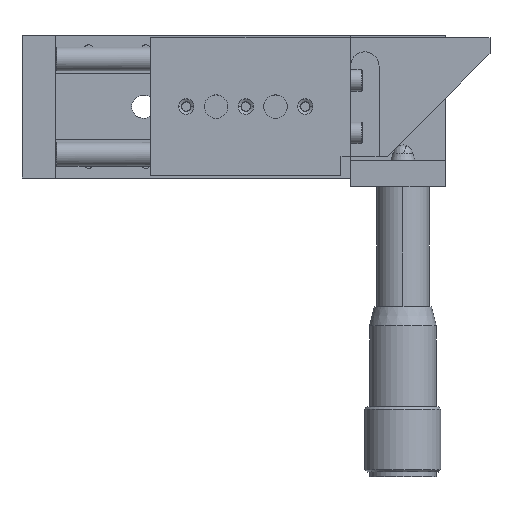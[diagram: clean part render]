
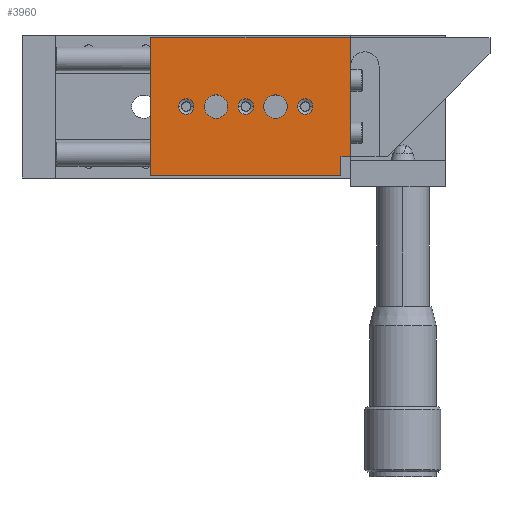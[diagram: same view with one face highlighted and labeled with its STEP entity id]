
A CAD part, top view. The second image highlights one B-rep face of the part: STEP entity #3960.
In plain terms, the highlighted planar face has unit normal (0, 0, 1).
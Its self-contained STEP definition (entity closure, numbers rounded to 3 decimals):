
#1883 = ORIENTED_EDGE ( 'NONE', *, *, #5109, .T. ) ;
#2257 = ORIENTED_EDGE ( 'NONE', *, *, #2835, .F. ) ;
#2351 = VERTEX_POINT ( 'NONE', #16753 ) ;
#2398 = EDGE_CURVE ( 'NONE', #2920, #2922, #16874, .T. ) ;
#2400 = ORIENTED_EDGE ( 'NONE', *, *, #2919, .F. ) ;
#2835 = EDGE_CURVE ( 'NONE', #2836, #2837, #17708, .T. ) ;
#2836 = VERTEX_POINT ( 'NONE', #17704 ) ;
#2837 = VERTEX_POINT ( 'NONE', #17703 ) ;
#2919 = EDGE_CURVE ( 'NONE', #2837, #2920, #17834, .T. ) ;
#2920 = VERTEX_POINT ( 'NONE', #17830 ) ;
#2922 = VERTEX_POINT ( 'NONE', #17828 ) ;
#2924 = EDGE_CURVE ( 'NONE', #2922, #2925, #17827, .T. ) ;
#2925 = VERTEX_POINT ( 'NONE', #17823 ) ;
#3851 = ORIENTED_EDGE ( 'NONE', *, *, #2398, .F. ) ;
#3932 = EDGE_LOOP ( 'NONE', ( #3934, #3936 ) ) ;
#3934 = ORIENTED_EDGE ( 'NONE', *, *, #4724, .T. ) ;
#3936 = ORIENTED_EDGE ( 'NONE', *, *, #3938, .T. ) ;
#3938 = EDGE_CURVE ( 'NONE', #4721, #4726, #21526, .T. ) ;
#3941 = EDGE_LOOP ( 'NONE', ( #3943, #5117 ) ) ;
#3943 = ORIENTED_EDGE ( 'NONE', *, *, #4824, .T. ) ;
#3946 = EDGE_LOOP ( 'NONE', ( #5120, #5122 ) ) ;
#3960 = ADVANCED_FACE ( 'NONE', ( #21501, #21500, #21557, #21556, #21555, #21554 ), #21503, .T. ) ;
#3962 = ORIENTED_EDGE ( 'NONE', *, *, #3964, .F. ) ;
#3964 = EDGE_CURVE ( 'NONE', #2351, #2836, #21548, .T. ) ;
#3966 = ORIENTED_EDGE ( 'NONE', *, *, #3968, .F. ) ;
#3968 = EDGE_CURVE ( 'NONE', #2925, #2351, #21537, .T. ) ;
#3971 = EDGE_LOOP ( 'NONE', ( #3973, #1883 ) ) ;
#3973 = ORIENTED_EDGE ( 'NONE', *, *, #4751, .T. ) ;
#3976 = EDGE_LOOP ( 'NONE', ( #3978, #3851, #2400, #2257, #3962, #3966 ) ) ;
#3978 = ORIENTED_EDGE ( 'NONE', *, *, #2924, .F. ) ;
#4721 = VERTEX_POINT ( 'NONE', #24239 ) ;
#4724 = EDGE_CURVE ( 'NONE', #4726, #4721, #24236, .T. ) ;
#4726 = VERTEX_POINT ( 'NONE', #24227 ) ;
#4747 = VERTEX_POINT ( 'NONE', #24259 ) ;
#4751 = EDGE_CURVE ( 'NONE', #4752, #4747, #24253, .T. ) ;
#4752 = VERTEX_POINT ( 'NONE', #24248 ) ;
#4820 = VERTEX_POINT ( 'NONE', #24429 ) ;
#4824 = EDGE_CURVE ( 'NONE', #4826, #4820, #24428, .T. ) ;
#4826 = VERTEX_POINT ( 'NONE', #24418 ) ;
#4888 = VERTEX_POINT ( 'NONE', #24524 ) ;
#4891 = EDGE_CURVE ( 'NONE', #4893, #4888, #24522, .T. ) ;
#4893 = VERTEX_POINT ( 'NONE', #24512 ) ;
#4913 = VERTEX_POINT ( 'NONE', #24539 ) ;
#4917 = EDGE_CURVE ( 'NONE', #4919, #4913, #24538, .T. ) ;
#4919 = VERTEX_POINT ( 'NONE', #24533 ) ;
#5109 = EDGE_CURVE ( 'NONE', #4747, #4752, #24929, .T. ) ;
#5117 = ORIENTED_EDGE ( 'NONE', *, *, #5118, .T. ) ;
#5118 = EDGE_CURVE ( 'NONE', #4820, #4826, #24953, .T. ) ;
#5120 = ORIENTED_EDGE ( 'NONE', *, *, #4917, .T. ) ;
#5122 = ORIENTED_EDGE ( 'NONE', *, *, #5124, .T. ) ;
#5124 = EDGE_CURVE ( 'NONE', #4913, #4919, #24935, .T. ) ;
#5127 = EDGE_LOOP ( 'NONE', ( #5129, #5131 ) ) ;
#5129 = ORIENTED_EDGE ( 'NONE', *, *, #4891, .T. ) ;
#5131 = ORIENTED_EDGE ( 'NONE', *, *, #5133, .T. ) ;
#5133 = EDGE_CURVE ( 'NONE', #4888, #4893, #24973, .T. ) ;
#16753 = CARTESIAN_POINT ( 'NONE',  ( 60., 0.5, 22. ) ) ;
#16871 = DIRECTION ( 'NONE',  ( 0., -1., 0. ) ) ;
#16872 = VECTOR ( 'NONE', #16871, 1000. ) ;
#16873 = CARTESIAN_POINT ( 'NONE',  ( 62., 29.5, 22. ) ) ;
#16874 = LINE ( 'NONE', #16873, #16872 ) ;
#17703 = CARTESIAN_POINT ( 'NONE',  ( 20., 29.5, 22. ) ) ;
#17704 = CARTESIAN_POINT ( 'NONE',  ( 20., 0.5, 22. ) ) ;
#17705 = DIRECTION ( 'NONE',  ( 0., 1., 0. ) ) ;
#17706 = VECTOR ( 'NONE', #17705, 1000. ) ;
#17707 = CARTESIAN_POINT ( 'NONE',  ( 20., 29.5, 22. ) ) ;
#17708 = LINE ( 'NONE', #17707, #17706 ) ;
#17823 = CARTESIAN_POINT ( 'NONE',  ( 60., 4.5, 22. ) ) ;
#17824 = DIRECTION ( 'NONE',  ( -1., 0., 0. ) ) ;
#17825 = VECTOR ( 'NONE', #17824, 1000. ) ;
#17826 = CARTESIAN_POINT ( 'NONE',  ( 69.7, 4.5, 22. ) ) ;
#17827 = LINE ( 'NONE', #17826, #17825 ) ;
#17828 = CARTESIAN_POINT ( 'NONE',  ( 62., 4.5, 22. ) ) ;
#17830 = CARTESIAN_POINT ( 'NONE',  ( 62., 29.5, 22. ) ) ;
#17831 = DIRECTION ( 'NONE',  ( 1., 0., 0. ) ) ;
#17832 = VECTOR ( 'NONE', #17831, 1000. ) ;
#17833 = CARTESIAN_POINT ( 'NONE',  ( 60., 29.5, 22. ) ) ;
#17834 = LINE ( 'NONE', #17833, #17832 ) ;
#21500 = FACE_BOUND ( 'NONE', #3971, .T. ) ;
#21501 = FACE_OUTER_BOUND ( 'NONE', #3976, .T. ) ;
#21503 = PLANE ( 'NONE',  #21553 ) ;
#21522 = DIRECTION ( 'NONE',  ( 0., -1., 0. ) ) ;
#21523 = DIRECTION ( 'NONE',  ( 0., 0., -1. ) ) ;
#21524 = CARTESIAN_POINT ( 'NONE',  ( 46.25, 15., 22. ) ) ;
#21525 = AXIS2_PLACEMENT_3D ( 'NONE', #21524, #21523, #21522 ) ;
#21526 = CIRCLE ( 'NONE', #21525, 2.458 ) ;
#21534 = DIRECTION ( 'NONE',  ( 0., -1., 0. ) ) ;
#21535 = VECTOR ( 'NONE', #21534, 1000. ) ;
#21536 = CARTESIAN_POINT ( 'NONE',  ( 60., 0.5, 22. ) ) ;
#21537 = LINE ( 'NONE', #21536, #21535 ) ;
#21539 = DIRECTION ( 'NONE',  ( -1., 0., 0. ) ) ;
#21540 = VECTOR ( 'NONE', #21539, 1000. ) ;
#21541 = CARTESIAN_POINT ( 'NONE',  ( 20., 0.5, 22. ) ) ;
#21548 = LINE ( 'NONE', #21541, #21540 ) ;
#21550 = DIRECTION ( 'NONE',  ( 0., -1., 0. ) ) ;
#21551 = DIRECTION ( 'NONE',  ( 0., 0., 1. ) ) ;
#21552 = CARTESIAN_POINT ( 'NONE',  ( 61., 17., 22. ) ) ;
#21553 = AXIS2_PLACEMENT_3D ( 'NONE', #21552, #21551, #21550 ) ;
#21554 = FACE_BOUND ( 'NONE', #5127, .T. ) ;
#21555 = FACE_BOUND ( 'NONE', #3946, .T. ) ;
#21556 = FACE_BOUND ( 'NONE', #3941, .T. ) ;
#21557 = FACE_BOUND ( 'NONE', #3932, .T. ) ;
#24227 = CARTESIAN_POINT ( 'NONE',  ( 46.25, 12.542, 22. ) ) ;
#24228 = DIRECTION ( 'NONE',  ( 0., -1., 0. ) ) ;
#24229 = DIRECTION ( 'NONE',  ( 0., 0., -1. ) ) ;
#24230 = CARTESIAN_POINT ( 'NONE',  ( 46.25, 15., 22. ) ) ;
#24231 = AXIS2_PLACEMENT_3D ( 'NONE', #24230, #24229, #24228 ) ;
#24236 = CIRCLE ( 'NONE', #24231, 2.458 ) ;
#24239 = CARTESIAN_POINT ( 'NONE',  ( 46.25, 17.459, 22. ) ) ;
#24248 = CARTESIAN_POINT ( 'NONE',  ( 33.75, 12.542, 22. ) ) ;
#24249 = DIRECTION ( 'NONE',  ( 0., -1., 0. ) ) ;
#24250 = DIRECTION ( 'NONE',  ( 0., 0., -1. ) ) ;
#24251 = CARTESIAN_POINT ( 'NONE',  ( 33.75, 15., 22. ) ) ;
#24252 = AXIS2_PLACEMENT_3D ( 'NONE', #24251, #24250, #24249 ) ;
#24253 = CIRCLE ( 'NONE', #24252, 2.458 ) ;
#24259 = CARTESIAN_POINT ( 'NONE',  ( 33.75, 17.458, 22. ) ) ;
#24418 = CARTESIAN_POINT ( 'NONE',  ( 27.5, 13.379, 22. ) ) ;
#24424 = DIRECTION ( 'NONE',  ( 0., -1., 0. ) ) ;
#24425 = DIRECTION ( 'NONE',  ( 0., 0., -1. ) ) ;
#24426 = CARTESIAN_POINT ( 'NONE',  ( 27.5, 15., 22. ) ) ;
#24427 = AXIS2_PLACEMENT_3D ( 'NONE', #24426, #24425, #24424 ) ;
#24428 = CIRCLE ( 'NONE', #24427, 1.621 ) ;
#24429 = CARTESIAN_POINT ( 'NONE',  ( 27.5, 16.621, 22. ) ) ;
#24512 = CARTESIAN_POINT ( 'NONE',  ( 52.5, 13.379, 22. ) ) ;
#24518 = DIRECTION ( 'NONE',  ( 0., -1., 0. ) ) ;
#24519 = DIRECTION ( 'NONE',  ( 0., 0., -1. ) ) ;
#24520 = CARTESIAN_POINT ( 'NONE',  ( 52.5, 15., 22. ) ) ;
#24521 = AXIS2_PLACEMENT_3D ( 'NONE', #24520, #24519, #24518 ) ;
#24522 = CIRCLE ( 'NONE', #24521, 1.621 ) ;
#24524 = CARTESIAN_POINT ( 'NONE',  ( 52.5, 16.621, 22. ) ) ;
#24533 = CARTESIAN_POINT ( 'NONE',  ( 40., 13.379, 22. ) ) ;
#24534 = DIRECTION ( 'NONE',  ( 0., -1., 0. ) ) ;
#24535 = DIRECTION ( 'NONE',  ( 0., 0., -1. ) ) ;
#24536 = CARTESIAN_POINT ( 'NONE',  ( 40., 15., 22. ) ) ;
#24537 = AXIS2_PLACEMENT_3D ( 'NONE', #24536, #24535, #24534 ) ;
#24538 = CIRCLE ( 'NONE', #24537, 1.621 ) ;
#24539 = CARTESIAN_POINT ( 'NONE',  ( 40., 16.621, 22. ) ) ;
#24910 = CARTESIAN_POINT ( 'NONE',  ( 27.5, 15., 22. ) ) ;
#24925 = DIRECTION ( 'NONE',  ( 0., -1., 0. ) ) ;
#24926 = DIRECTION ( 'NONE',  ( 0., 0., -1. ) ) ;
#24927 = CARTESIAN_POINT ( 'NONE',  ( 33.75, 15., 22. ) ) ;
#24928 = AXIS2_PLACEMENT_3D ( 'NONE', #24927, #24926, #24925 ) ;
#24929 = CIRCLE ( 'NONE', #24928, 2.458 ) ;
#24935 = CIRCLE ( 'NONE', #24985, 1.621 ) ;
#24952 = AXIS2_PLACEMENT_3D ( 'NONE', #24910, #24955, #24954 ) ;
#24953 = CIRCLE ( 'NONE', #24952, 1.621 ) ;
#24954 = DIRECTION ( 'NONE',  ( 0., -1., 0. ) ) ;
#24955 = DIRECTION ( 'NONE',  ( 0., 0., -1. ) ) ;
#24969 = DIRECTION ( 'NONE',  ( 0., -1., 0. ) ) ;
#24970 = DIRECTION ( 'NONE',  ( 0., 0., -1. ) ) ;
#24971 = CARTESIAN_POINT ( 'NONE',  ( 52.5, 15., 22. ) ) ;
#24972 = AXIS2_PLACEMENT_3D ( 'NONE', #24971, #24970, #24969 ) ;
#24973 = CIRCLE ( 'NONE', #24972, 1.621 ) ;
#24982 = DIRECTION ( 'NONE',  ( 0., -1., 0. ) ) ;
#24983 = DIRECTION ( 'NONE',  ( 0., 0., -1. ) ) ;
#24984 = CARTESIAN_POINT ( 'NONE',  ( 40., 15., 22. ) ) ;
#24985 = AXIS2_PLACEMENT_3D ( 'NONE', #24984, #24983, #24982 ) ;
